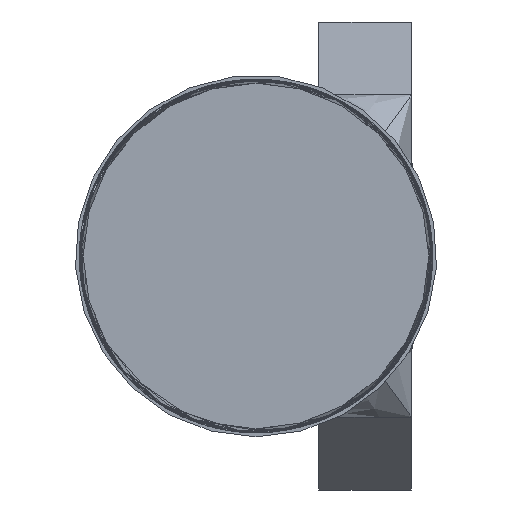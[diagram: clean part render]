
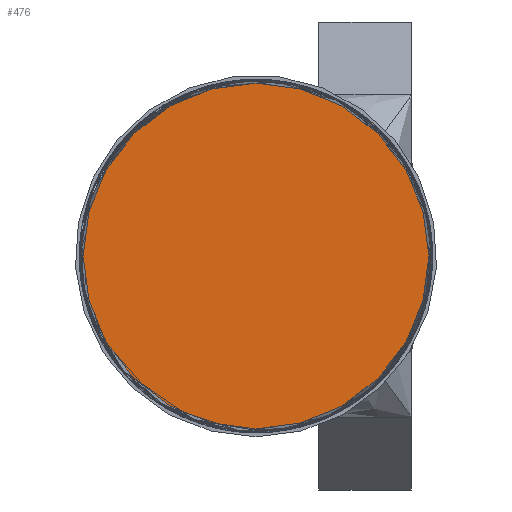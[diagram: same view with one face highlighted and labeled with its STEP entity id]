
A CAD part, left-side view. The second image highlights one B-rep face of the part: STEP entity #476.
In plain terms, the highlighted planar face has unit normal (-1, 0, 0).
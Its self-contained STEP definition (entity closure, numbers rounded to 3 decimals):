
#137=FACE_OUTER_BOUND('',#170,.T.);
#170=EDGE_LOOP('',(#413));
#188=CIRCLE('',#534,4.128);
#230=VERTEX_POINT('',#10827);
#291=EDGE_CURVE('',#230,#230,#188,.T.);
#413=ORIENTED_EDGE('',*,*,#291,.T.);
#425=PLANE('',#535);
#476=ADVANCED_FACE('',(#137),#425,.T.);
#534=AXIS2_PLACEMENT_3D('',#10829,#641,#642);
#535=AXIS2_PLACEMENT_3D('',#10830,#643,#644);
#641=DIRECTION('center_axis',(-1.,0.,0.));
#642=DIRECTION('ref_axis',(0.,-1.,0.));
#643=DIRECTION('center_axis',(-1.,0.,0.));
#644=DIRECTION('ref_axis',(0.,0.,1.));
#10827=CARTESIAN_POINT('',(0.,4.128,0.));
#10829=CARTESIAN_POINT('Origin',(0.,0.,0.));
#10830=CARTESIAN_POINT('Origin',(0.,0.,0.));
